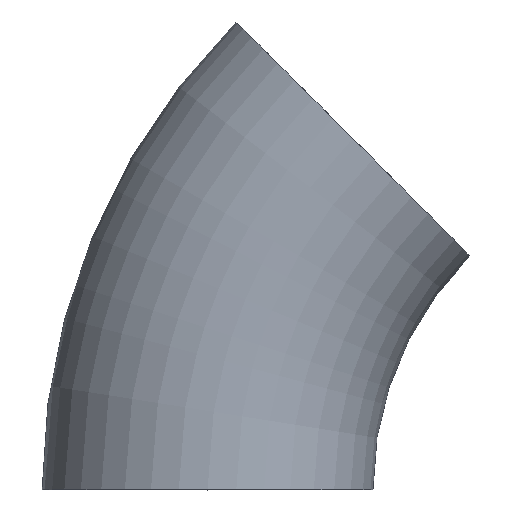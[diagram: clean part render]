
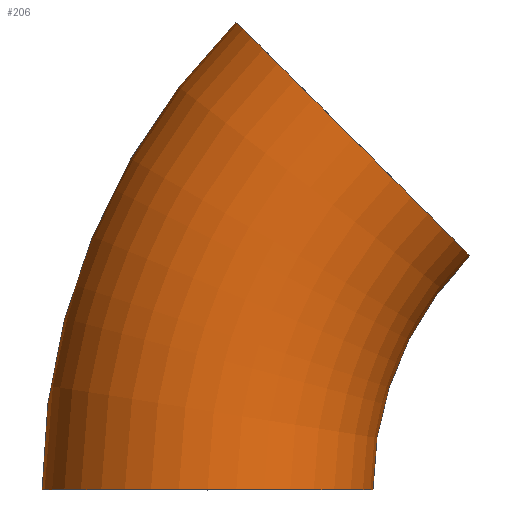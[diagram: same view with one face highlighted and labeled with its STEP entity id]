
A CAD part, top view. The second image highlights one B-rep face of the part: STEP entity #206.
In plain terms, the highlighted toroidal (fillet/blend) face has major radius 152.4 mm and minor radius 50.8 mm.
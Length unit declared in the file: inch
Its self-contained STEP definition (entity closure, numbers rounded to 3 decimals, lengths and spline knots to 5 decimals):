
#3 = CARTESIAN_POINT ( 'NONE',  ( -4.24264, 4.24264, 0. ) ) ;
#13 = DIRECTION ( 'NONE',  ( 1., 0., 0. ) ) ;
#14 = DIRECTION ( 'NONE',  ( 0.707, 0.707, 0. ) ) ;
#15 = CIRCLE ( 'NONE', #131, 2. ) ;
#16 = ORIENTED_EDGE ( 'NONE', *, *, #194, .T. ) ;
#23 = DIRECTION ( 'NONE',  ( 0., 0., 1. ) ) ;
#24 = CARTESIAN_POINT ( 'NONE',  ( 0., 0., 0. ) ) ;
#26 = EDGE_LOOP ( 'NONE', ( #178, #226, #16, #43 ) ) ;
#27 = VERTEX_POINT ( 'NONE', #31 ) ;
#31 = CARTESIAN_POINT ( 'NONE',  ( -4., 0., 0. ) ) ;
#43 = ORIENTED_EDGE ( 'NONE', *, *, #203, .F. ) ;
#45 = DIRECTION ( 'NONE',  ( 0., 0., 1. ) ) ;
#48 = CIRCLE ( 'NONE', #135, 8. ) ;
#56 = TOROIDAL_SURFACE ( 'NONE', #133, 6., 2. ) ;
#62 = CIRCLE ( 'NONE', #139, 4. ) ;
#66 = DIRECTION ( 'NONE',  ( 1., 0., 0. ) ) ;
#69 = DIRECTION ( 'NONE',  ( 0., 0., 1. ) ) ;
#77 = CARTESIAN_POINT ( 'NONE',  ( 0., 0., 0. ) ) ;
#82 = CARTESIAN_POINT ( 'NONE',  ( -6., 0., 0. ) ) ;
#100 = CARTESIAN_POINT ( 'NONE',  ( 0., 0., 0. ) ) ;
#114 = FACE_OUTER_BOUND ( 'NONE', #26, .T. ) ;
#121 = VERTEX_POINT ( 'NONE', #212 ) ;
#124 = VERTEX_POINT ( 'NONE', #227 ) ;
#125 = DIRECTION ( 'NONE',  ( 1., 0., 0. ) ) ;
#131 = AXIS2_PLACEMENT_3D ( 'NONE', #3, #14, #153 ) ;
#133 = AXIS2_PLACEMENT_3D ( 'NONE', #100, #45, #125 ) ;
#135 = AXIS2_PLACEMENT_3D ( 'NONE', #24, #23, #13 ) ;
#139 = AXIS2_PLACEMENT_3D ( 'NONE', #77, #69, #66 ) ;
#148 = DIRECTION ( 'NONE',  ( 0., 0., 1. ) ) ;
#150 = AXIS2_PLACEMENT_3D ( 'NONE', #82, #172, #148 ) ;
#153 = DIRECTION ( 'NONE',  ( 0., 0., 1. ) ) ;
#172 = DIRECTION ( 'NONE',  ( 0., 1., 0. ) ) ;
#178 = ORIENTED_EDGE ( 'NONE', *, *, #214, .F. ) ;
#181 = VERTEX_POINT ( 'NONE', #255 ) ;
#194 = EDGE_CURVE ( 'NONE', #121, #27, #211, .T. ) ;
#203 = EDGE_CURVE ( 'NONE', #181, #27, #62, .T. ) ;
#206 = ADVANCED_FACE ( 'NONE', ( #114 ), #56, .T. ) ;
#208 = EDGE_CURVE ( 'NONE', #124, #121, #48, .T. ) ;
#211 = CIRCLE ( 'NONE', #150, 2. ) ;
#212 = CARTESIAN_POINT ( 'NONE',  ( -8., 0., 0. ) ) ;
#214 = EDGE_CURVE ( 'NONE', #124, #181, #15, .T. ) ;
#226 = ORIENTED_EDGE ( 'NONE', *, *, #208, .T. ) ;
#227 = CARTESIAN_POINT ( 'NONE',  ( -5.65685, 5.65685, 0. ) ) ;
#255 = CARTESIAN_POINT ( 'NONE',  ( -2.82843, 2.82843, 0. ) ) ;
